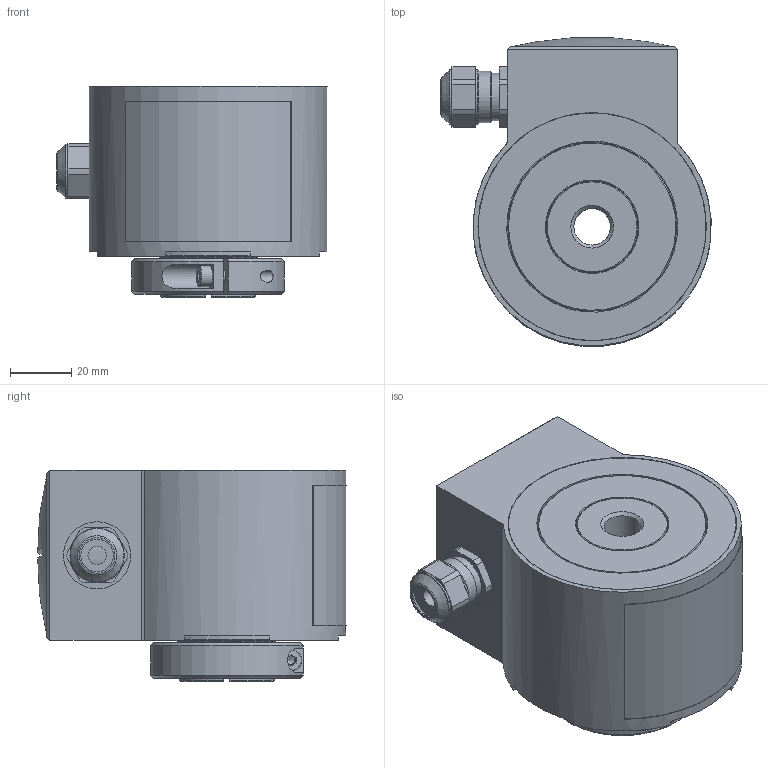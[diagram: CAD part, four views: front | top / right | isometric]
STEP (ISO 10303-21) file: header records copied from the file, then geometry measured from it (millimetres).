
FILE_DESCRIPTION (( 'STEP AP214' ), '1' );
FILE_NAME ('HW730 12mm.STEP', '2012-06-21T06:03:55', ( 'Camille Bauer AG' ), ( '' ), 'SwSTEP 2.0', 'SolidWorks 2010', '' );
FILE_SCHEMA (( 'AUTOMOTIVE_DESIGN' ));
Length unit declared in the file: millimetre
Products named in the file (1): HW730 12mm
Bounding box: 88.41 x 100.97 x 69.2 mm (x, y, z)
Volume: 356290.3 mm3; surface area: 98595 mm2
Topology: 10 solids, 12 shells, 285 faces, 671 edges, 436 vertices
Faces by surface type: plane 131, cylinder 80, cone 66, bspline 6, sphere 1, torus 1
Full cylindrical faces by diameter (mm): 3.3 x6, 4 x3, 6 x1, 7 x1, 10.7 x1, 12 x2, 12.1 x1, 13.5 x1, 13.93 x1, 14.5 x1, 15.59 x1, 16 x2, 16.2 x1, 16.79 x1, 17.8 x2, 22 x1, 29 x1, 30 x2, 30.07 x1, 30.2 x1, 32.025 x2, 32.072 x2, 32.08 x1, 35 x1, 35.003 x1, 44 x1, 45 x1, 51.5 x1, 52 x1, 55.4 x2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
Entity records: 11627 total; most frequent: CARTESIAN_POINT 2375, DIRECTION 1261, ORIENTED_EDGE 1074, EDGE_CURVE 537, AXIS2_PLACEMENT_3D 524, EDGE_LOOP 426, VERTEX_POINT 399, FACE_OUTER_BOUND 340
